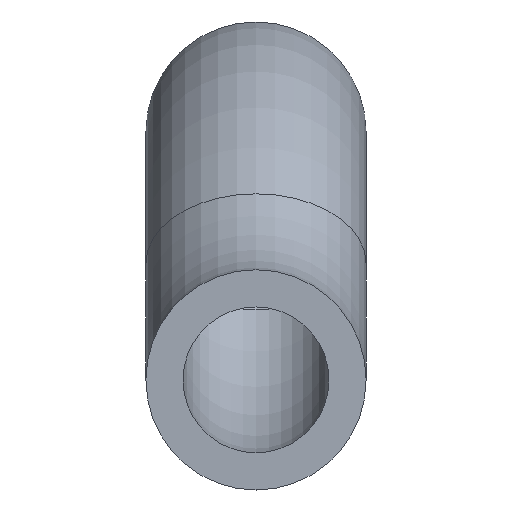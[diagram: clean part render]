
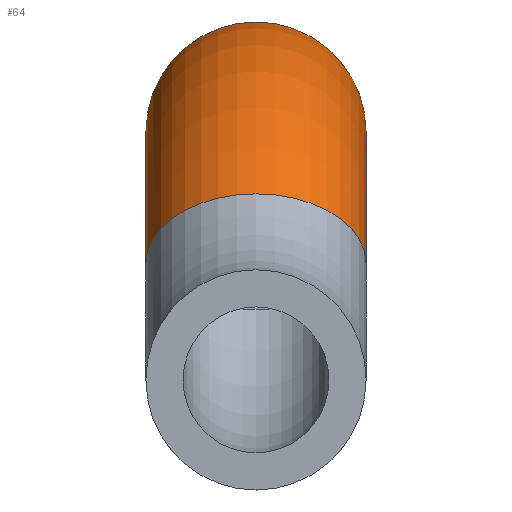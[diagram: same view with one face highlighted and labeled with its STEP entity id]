
A CAD part, front view. The second image highlights one B-rep face of the part: STEP entity #64.
In plain terms, the highlighted toroidal (fillet/blend) face has major radius 52 mm and minor radius 16 mm.
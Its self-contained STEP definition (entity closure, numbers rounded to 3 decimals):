
#64=ADVANCED_FACE('',(#164,#166),#168,.T.);
#164=FACE_OUTER_BOUND('',#165,.T.);
#165=EDGE_LOOP('',(#195));
#166=FACE_OUTER_BOUND('',#167,.T.);
#167=EDGE_LOOP('',(#196));
#168=TOROIDAL_SURFACE('',#169,52.,16.);
#169=AXIS2_PLACEMENT_3D('',#170,#171,#172);
#170=CARTESIAN_POINT('',(0.,0.,-16.));
#171=DIRECTION('',(1.,0.,0.));
#172=DIRECTION('',(0.,0.774,0.633));
#195=ORIENTED_EDGE('',*,*,#207,.T.);
#196=ORIENTED_EDGE('',*,*,#208,.F.);
#207=EDGE_CURVE('',#229,#229,#230,.T.);
#208=EDGE_CURVE('',#231,#231,#232,.T.);
#229=VERTEX_POINT('',#283);
#230=CIRCLE('',#284,16.);
#231=VERTEX_POINT('',#288);
#232=CIRCLE('',#289,16.);
#283=CARTESIAN_POINT('',(-16.,40.271,16.898));
#284=AXIS2_PLACEMENT_3D('',#285,#286,#287);
#285=CARTESIAN_POINT('',(0.,40.271,16.898));
#286=DIRECTION('',(0.,-0.633,0.774));
#287=DIRECTION('',(-1.,0.,0.));
#288=CARTESIAN_POINT('',(-16.,-40.271,16.898));
#289=AXIS2_PLACEMENT_3D('',#290,#291,#292);
#290=CARTESIAN_POINT('',(0.,-40.271,16.898));
#291=DIRECTION('',(0.,-0.633,-0.774));
#292=DIRECTION('',(-1.,0.,0.));
